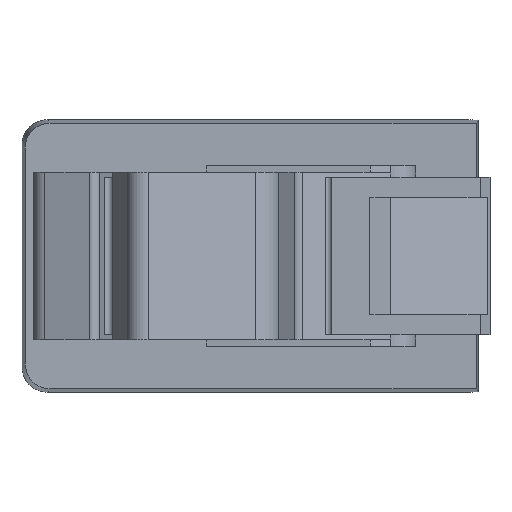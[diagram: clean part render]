
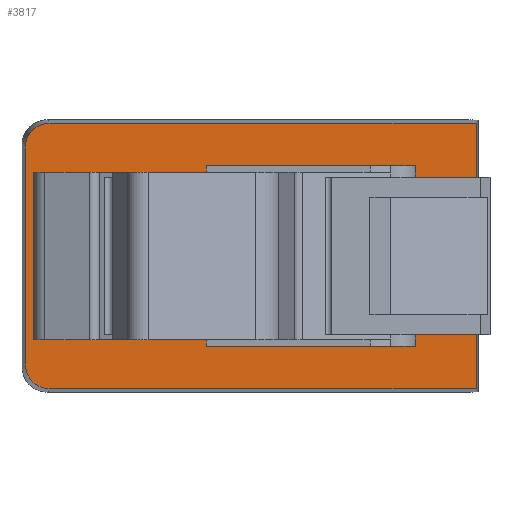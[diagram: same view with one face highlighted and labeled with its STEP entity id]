
A CAD part, front view. The second image highlights one B-rep face of the part: STEP entity #3817.
In plain terms, the highlighted planar face has unit normal (0, -1, 0).
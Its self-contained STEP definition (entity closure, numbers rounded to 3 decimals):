
#31 = FACE_OUTER_BOUND ( 'NONE', #1537, .T. ) ;
#101 = CARTESIAN_POINT ( 'NONE',  ( -55.845, -7.843, -15.87 ) ) ;
#143 = CARTESIAN_POINT ( 'NONE',  ( -58.84, -7.843, 12.874 ) ) ;
#149 = DIRECTION ( 'NONE',  ( 0., 1., 0. ) ) ;
#259 = DIRECTION ( 'NONE',  ( 0., 0., 1. ) ) ;
#270 = ORIENTED_EDGE ( 'NONE', *, *, #2356, .F. ) ;
#301 = FACE_BOUND ( 'NONE', #1654, .T. ) ;
#346 = VERTEX_POINT ( 'NONE', #2560 ) ;
#379 = CARTESIAN_POINT ( 'NONE',  ( -5., -7.843, 0. ) ) ;
#417 = VERTEX_POINT ( 'NONE', #1406 ) ;
#477 = CARTESIAN_POINT ( 'NONE',  ( -5., -7.843, -15.87 ) ) ;
#562 = VECTOR ( 'NONE', #259, 1000. ) ;
#595 = ORIENTED_EDGE ( 'NONE', *, *, #2734, .T. ) ;
#610 = CARTESIAN_POINT ( 'NONE',  ( -45.33, -7.843, 0. ) ) ;
#679 = LINE ( 'NONE', #2472, #562 ) ;
#713 = DIRECTION ( 'NONE',  ( 0., 0., -1. ) ) ;
#716 = DIRECTION ( 'NONE',  ( 0., 0., 1. ) ) ;
#720 = DIRECTION ( 'NONE',  ( 0., -1., 0. ) ) ;
#765 = VERTEX_POINT ( 'NONE', #3402 ) ;
#826 = PLANE ( 'NONE',  #2783 ) ;
#850 = EDGE_CURVE ( 'NONE', #2239, #1879, #1953, .T. ) ;
#920 = CARTESIAN_POINT ( 'NONE',  ( -45.33, -7.843, 0. ) ) ;
#929 = ORIENTED_EDGE ( 'NONE', *, *, #2715, .F. ) ;
#964 = VECTOR ( 'NONE', #713, 1000. ) ;
#1015 = VERTEX_POINT ( 'NONE', #3623 ) ;
#1027 = ORIENTED_EDGE ( 'NONE', *, *, #2400, .F. ) ;
#1058 = DIRECTION ( 'NONE',  ( -1., 0., 0. ) ) ;
#1202 = ORIENTED_EDGE ( 'NONE', *, *, #2803, .T. ) ;
#1204 = CARTESIAN_POINT ( 'NONE',  ( -55.845, -7.843, -15.87 ) ) ;
#1251 = DIRECTION ( 'NONE',  ( 0., 0., 1. ) ) ;
#1406 = CARTESIAN_POINT ( 'NONE',  ( -58.84, -7.843, 12.874 ) ) ;
#1435 = ORIENTED_EDGE ( 'NONE', *, *, #2673, .F. ) ;
#1450 = ORIENTED_EDGE ( 'NONE', *, *, #850, .F. ) ;
#1507 = CARTESIAN_POINT ( 'NONE',  ( -23.865, -7.843, 0. ) ) ;
#1536 = CARTESIAN_POINT ( 'NONE',  ( -45.33, -7.843, 8.376 ) ) ;
#1537 = EDGE_LOOP ( 'NONE', ( #929, #1202, #1027, #595, #1435, #1967 ) ) ;
#1654 = EDGE_LOOP ( 'NONE', ( #270, #1450 ) ) ;
#1803 = CARTESIAN_POINT ( 'NONE',  ( -58.84, -7.843, -12.874 ) ) ;
#1849 = CIRCLE ( 'NONE', #2513, 8.376 ) ;
#1879 = VERTEX_POINT ( 'NONE', #1992 ) ;
#1953 = CIRCLE ( 'NONE', #3340, 8.376 ) ;
#1967 = ORIENTED_EDGE ( 'NONE', *, *, #2608, .F. ) ;
#1992 = CARTESIAN_POINT ( 'NONE',  ( -45.33, -7.843, -8.376 ) ) ;
#2084 = LINE ( 'NONE', #379, #964 ) ;
#2109 = CARTESIAN_POINT ( 'NONE',  ( -57.601, -7.843, -15.87 ) ) ;
#2152 = CARTESIAN_POINT ( 'NONE',  ( -58.84, -7.843, 14.63 ) ) ;
#2187 = LINE ( 'NONE', #2338, #3733 ) ;
#2239 = VERTEX_POINT ( 'NONE', #1536 ) ;
#2338 = CARTESIAN_POINT ( 'NONE',  ( -23.865, -7.843, -15.87 ) ) ;
#2356 = EDGE_CURVE ( 'NONE', #1879, #2239, #1849, .T. ) ;
#2362 = DIRECTION ( 'NONE',  ( 1., 0., 0. ) ) ;
#2400 = EDGE_CURVE ( 'NONE', #346, #417, #679, .T. ) ;
#2403 = DIRECTION ( 'NONE',  ( 0., 0., 1. ) ) ;
#2472 = CARTESIAN_POINT ( 'NONE',  ( -58.84, -7.843, 0. ) ) ;
#2513 = AXIS2_PLACEMENT_3D ( 'NONE', #920, #2987, #1251 ) ;
#2560 = CARTESIAN_POINT ( 'NONE',  ( -58.84, -7.843, -12.874 ) ) ;
#2608 = EDGE_CURVE ( 'NONE', #1015, #3254, #2084, .T. ) ;
#2646 = CARTESIAN_POINT ( 'NONE',  ( -57.601, -7.843, 15.87 ) ) ;
#2673 = EDGE_CURVE ( 'NONE', #3254, #2901, #2187, .T. ) ;
#2715 = EDGE_CURVE ( 'NONE', #765, #1015, #2730, .T. ) ;
#2730 = LINE ( 'NONE', #2867, #3071 ) ;
#2734 = EDGE_CURVE ( 'NONE', #346, #2901, #3773, .T. ) ;
#2783 = AXIS2_PLACEMENT_3D ( 'NONE', #1507, #149, #2403 ) ;
#2803 = EDGE_CURVE ( 'NONE', #765, #417, #3777, .T. ) ;
#2867 = CARTESIAN_POINT ( 'NONE',  ( -23.865, -7.843, 15.87 ) ) ;
#2901 = VERTEX_POINT ( 'NONE', #1204 ) ;
#2902 = CARTESIAN_POINT ( 'NONE',  ( -55.845, -7.843, 15.87 ) ) ;
#2987 = DIRECTION ( 'NONE',  ( 0., -1., 0. ) ) ;
#3071 = VECTOR ( 'NONE', #2362, 1000. ) ;
#3134 = CARTESIAN_POINT ( 'NONE',  ( -58.84, -7.843, -14.63 ) ) ;
#3254 = VERTEX_POINT ( 'NONE', #477 ) ;
#3340 = AXIS2_PLACEMENT_3D ( 'NONE', #610, #720, #716 ) ;
#3402 = CARTESIAN_POINT ( 'NONE',  ( -55.845, -7.843, 15.87 ) ) ;
#3623 = CARTESIAN_POINT ( 'NONE',  ( -5., -7.843, 15.87 ) ) ;
#3733 = VECTOR ( 'NONE', #1058, 1000. ) ;
#3773 =( BOUNDED_CURVE ( )  B_SPLINE_CURVE ( 3, ( #1803, #3134, #2109, #101 ),
 .UNSPECIFIED., .F., .F. ) 
 B_SPLINE_CURVE_WITH_KNOTS ( ( 4, 4 ),
 ( 5.499, 7.067 ),
 .UNSPECIFIED. ) 
 CURVE ( )  GEOMETRIC_REPRESENTATION_ITEM ( )  RATIONAL_B_SPLINE_CURVE ( ( 1., 0.805, 0.805, 1. ) ) 
 REPRESENTATION_ITEM ( '' )  );
#3777 =( BOUNDED_CURVE ( )  B_SPLINE_CURVE ( 3, ( #2902, #2646, #2152, #143 ),
 .UNSPECIFIED., .F., .F. ) 
 B_SPLINE_CURVE_WITH_KNOTS ( ( 4, 4 ),
 ( 5.499, 7.067 ),
 .UNSPECIFIED. ) 
 CURVE ( )  GEOMETRIC_REPRESENTATION_ITEM ( )  RATIONAL_B_SPLINE_CURVE ( ( 1., 0.805, 0.805, 1. ) ) 
 REPRESENTATION_ITEM ( '' )  );
#3817 = ADVANCED_FACE ( 'NONE', ( #31, #301 ), #826, .F. ) ;
